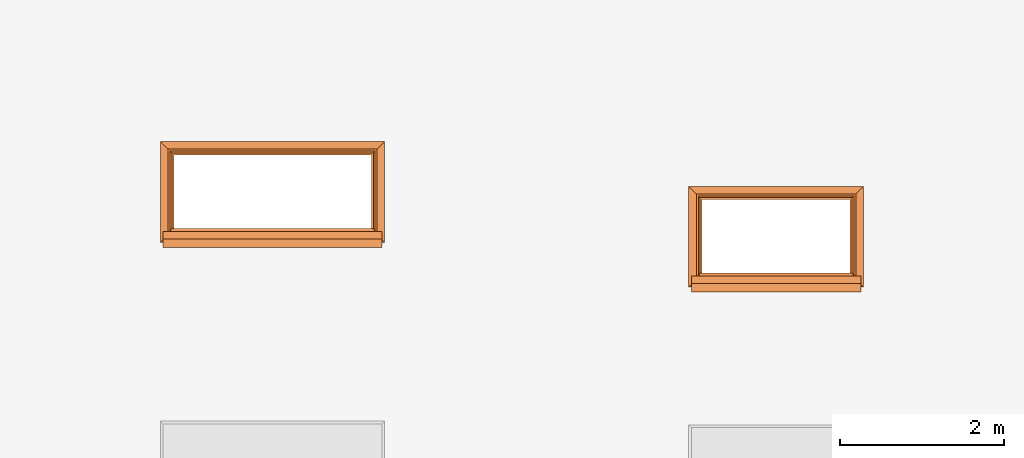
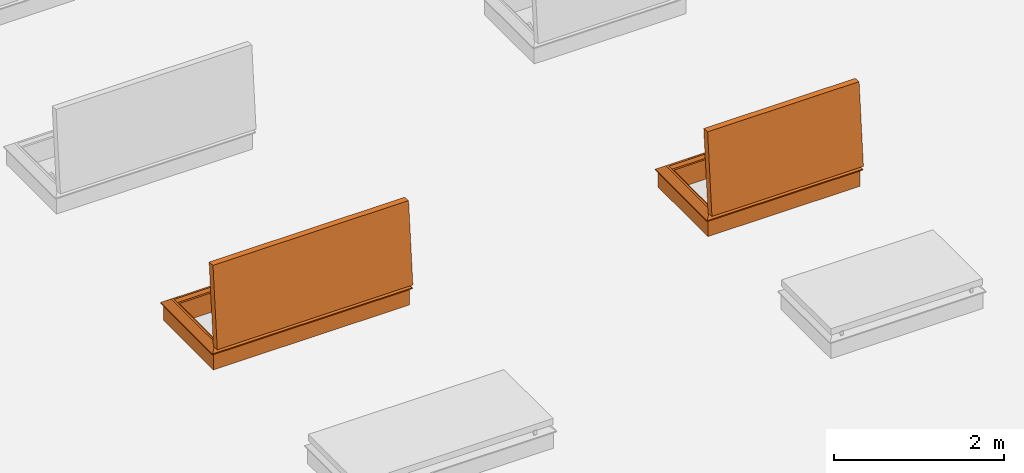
# One storey, part 15 of 28: 2 proxies.
"""IFC2X3 building model written with IfcOpenShell, lengths in millimetres."""

from ifc_helpers import new_model, entity, si_unit, converted_unit, derived_unit, direction, frame, origin, place, context, subcontext, project, spatial, faceted_brep, source, transform, mapped, type_object, type_shapes, element, save


model = new_model("IFC2X3")

# Units and contexts
model_context = context("Model", 3, precision=0.01, world=origin(), true_north=direction((6.12303176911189e-17, 1.0)))
body_context = subcontext(model_context, "Body", "Model", "MODEL_VIEW")
ifc_project = project(units=[si_unit("LENGTHUNIT", "METRE", prefix="MILLI"), si_unit("AREAUNIT", "SQUARE_METRE"), si_unit("VOLUMEUNIT", "CUBIC_METRE"), converted_unit("PLANEANGLEUNIT", "DEGREE", entity("IfcRatioMeasure", 0.0174532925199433), si_unit("PLANEANGLEUNIT", "RADIAN"), dimensions=[0, 0, 0, 0, 0, 0, 0]), si_unit("MASSUNIT", "GRAM", prefix="KILO"), derived_unit("MASSDENSITYUNIT", [(si_unit("MASSUNIT", "GRAM", prefix="KILO"), 1), (si_unit("LENGTHUNIT", "METRE"), -3)]), si_unit("TIMEUNIT", "SECOND"), si_unit("FREQUENCYUNIT", "HERTZ"), si_unit("THERMODYNAMICTEMPERATUREUNIT", "DEGREE_CELSIUS"), derived_unit("THERMALTRANSMITTANCEUNIT", [(si_unit("MASSUNIT", "GRAM", prefix="KILO"), 1), (si_unit("THERMODYNAMICTEMPERATUREUNIT", "KELVIN"), -1), (si_unit("TIMEUNIT", "SECOND"), -3)]), derived_unit("VOLUMETRICFLOWRATEUNIT", [(si_unit("LENGTHUNIT", "METRE"), 3), (si_unit("TIMEUNIT", "SECOND"), -1)]), si_unit("ELECTRICCURRENTUNIT", "AMPERE"), si_unit("ELECTRICVOLTAGEUNIT", "VOLT"), si_unit("POWERUNIT", "WATT"), si_unit("FORCEUNIT", "NEWTON", prefix="KILO"), si_unit("ILLUMINANCEUNIT", "LUX"), si_unit("LUMINOUSFLUXUNIT", "LUMEN"), si_unit("LUMINOUSINTENSITYUNIT", "CANDELA"), derived_unit("USERDEFINED", [(si_unit("MASSUNIT", "GRAM", prefix="KILO"), -1), (si_unit("LENGTHUNIT", "METRE"), -2), (si_unit("TIMEUNIT", "SECOND"), 3), (si_unit("LUMINOUSFLUXUNIT", "LUMEN"), 1)]), derived_unit("LINEARVELOCITYUNIT", [(si_unit("LENGTHUNIT", "METRE"), 1), (si_unit("TIMEUNIT", "SECOND"), -1)]), si_unit("PRESSUREUNIT", "PASCAL"), derived_unit("USERDEFINED", [(si_unit("LENGTHUNIT", "METRE"), -2), (si_unit("MASSUNIT", "GRAM", prefix="KILO"), 1), (si_unit("TIMEUNIT", "SECOND"), -2)])], contexts=[model_context])

# Site, building, storey
site_placement = place(None, origin())
site = spatial("IfcSite", under=ifc_project, at=site_placement, Name="Default", CompositionType="ELEMENT")
building_placement = place(site_placement, origin())
building = spatial("IfcBuilding", under=site, at=building_placement, CompositionType="ELEMENT")
storey_placement = place(building_placement, frame((0.0, 0.0, 4000.0)))
storey = spatial("IfcBuildingStorey", under=building, at=storey_placement, Name="Level 2", CompositionType="ELEMENT", Elevation=4000.0)

# Proxies
building_element_proxy_type_1 = type_object("IfcBuildingElementProxyType", Name="1800 x 900", PredefinedType="NOTDEFINED")
shared_shape_1 = source(origin(), body_context, "Body", "Brep", [
    faceted_brep([(-1631.26976233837, -341.462693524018, 337.452052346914), (-1631.26976233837, -341.488441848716, 335.779315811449), (-1631.26976233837, -341.532578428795, 334.060847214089), (-1631.26976233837, -341.190557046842, 332.37617996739), (-1631.26976233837, -340.479768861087, 330.81097630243), (-1631.26976233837, -339.436356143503, 329.444823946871), (-1631.26976233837, -338.113374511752, 328.347189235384), (-1631.26976233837, -336.578095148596, 327.573884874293), (-1631.26976233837, -302.711611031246, 315.073034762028), (-1631.26976233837, -349.563739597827, 277.591331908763), (-1631.26976233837, -356.620505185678, 286.412288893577), (-1631.26976233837, -357.994045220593, 289.380489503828), (-1631.26976233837, -358.771185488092, 292.557418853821), (-1631.26976233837, -358.922919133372, 295.824497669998), (-1631.26976233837, -354.679485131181, 338.870295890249), (-1631.26976233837, -353.959431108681, 340.38033982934), (-1631.26976233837, -352.892612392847, 341.668985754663), (-1631.26976233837, -351.543548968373, 342.658297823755), (-1631.26976233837, -349.993830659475, 343.288443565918), (-1631.26976233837, -348.337182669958, 343.521312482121), (-1631.26976233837, -346.673797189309, 343.342820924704), (-1631.26976233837, -345.104273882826, 342.763763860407), (-1631.26976233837, -343.723535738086, 341.819162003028), (-1631.26976233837, -342.615088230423, 340.566143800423), (-1631.26976233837, -341.845969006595, 339.080490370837), (-1594.51295834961, -302.711611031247, 315.073034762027), (-1594.51295834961, -349.563739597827, 277.591331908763), (-1594.51295834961, -356.620505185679, 286.412288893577), (-1594.51295834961, -357.994045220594, 289.380489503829), (-1594.51295834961, -358.771185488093, 292.557418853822), (-1594.51295834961, -358.922919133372, 295.824497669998), (-1594.51295834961, -354.679485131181, 338.870295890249), (-1594.51295834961, -353.959431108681, 340.380339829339), (-1594.51295834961, -352.892612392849, 341.668985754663), (-1594.51295834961, -351.543548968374, 342.658297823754), (-1594.51295834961, -349.993830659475, 343.288443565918), (-1594.51295834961, -348.337182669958, 343.52131248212), (-1594.51295834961, -346.673797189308, 343.342820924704), (-1594.51295834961, -343.723535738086, 341.819162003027), (-1594.51295834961, -345.104273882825, 342.763763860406), (-1594.51295834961, -342.615088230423, 340.566143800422), (-1594.51295834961, -341.845969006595, 339.080490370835), (-1594.51295834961, -341.462693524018, 337.452052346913), (-1594.51295834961, -341.488441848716, 335.779315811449), (-1594.51295834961, -341.532578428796, 334.060847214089), (-1594.51295834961, -341.190557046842, 332.376179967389), (-1594.51295834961, -340.479768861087, 330.810976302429), (-1594.51295834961, -338.113374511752, 328.347189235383), (-1594.51295834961, -336.578095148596, 327.573884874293), (-1594.51295834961, -339.436356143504, 329.44482394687)], [[[0, 1, 2, 3, 4, 5, 6, 7, 8, 9, 10, 11, 12, 13, 14, 15, 16, 17, 18, 19, 20, 21, 22, 23, 24]], [[9, 8, 25, 26]], [[10, 9, 26, 27]], [[27, 28, 11, 10]], [[28, 29, 12, 11]], [[29, 30, 13, 12]], [[14, 13, 30, 31]], [[15, 14, 31, 32]], [[33, 16, 15, 32]], [[18, 17, 34, 35]], [[17, 16, 33, 34]], [[36, 19, 18, 35]], [[20, 19, 36, 37]], [[38, 22, 21, 39]], [[40, 23, 22, 38]], [[0, 24, 41, 42]], [[40, 41, 24, 23]], [[1, 0, 42, 43]], [[39, 21, 20, 37]], [[44, 45, 3, 2]], [[43, 44, 2, 1]], [[46, 4, 3, 45]], [[47, 48, 7, 6]], [[49, 47, 6, 5]], [[49, 5, 4, 46]], [[8, 7, 48, 25]], [[26, 25, 48, 47, 49, 46, 45, 44, 43, 42, 41, 40, 38, 39, 37, 36, 35, 34, 33, 32, 31, 30, 29, 28, 27]]]),
    faceted_brep([(133.458717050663, -349.563739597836, 277.591331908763), (133.458717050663, -302.711611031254, 315.073034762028), (168.730237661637, -302.711611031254, 315.073034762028), (168.730237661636, -349.563739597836, 277.591331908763), (133.458717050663, -356.620505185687, 286.412288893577), (168.730237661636, -356.620505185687, 286.412288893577), (168.730237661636, -357.994045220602, 289.380489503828), (133.458717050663, -357.994045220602, 289.380489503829), (168.730237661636, -358.771185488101, 292.557418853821), (133.458717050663, -358.771185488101, 292.557418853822), (168.730237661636, -358.922919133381, 295.824497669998), (133.458717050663, -358.922919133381, 295.824497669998), (133.458717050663, -354.679485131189, 338.870295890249), (168.730237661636, -354.679485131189, 338.870295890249), (168.730237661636, -353.959431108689, 340.38033982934), (133.458717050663, -353.959431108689, 340.38033982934), (168.730237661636, -352.892612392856, 341.668985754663), (133.458717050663, -352.892612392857, 341.668985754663), (133.458717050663, -349.993830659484, 343.288443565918), (133.458717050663, -351.543548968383, 342.658297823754), (168.730237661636, -351.543548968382, 342.658297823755), (168.730237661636, -349.993830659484, 343.288443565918), (133.458717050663, -348.337182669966, 343.521312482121), (168.730237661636, -348.337182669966, 343.521312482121), (133.458717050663, -346.673797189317, 343.342820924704), (168.730237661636, -346.673797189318, 343.342820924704), (168.730237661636, -345.104273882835, 342.763763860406), (133.458717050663, -345.104273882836, 342.763763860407), (168.730237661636, -343.723535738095, 341.819162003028), (133.458717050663, -343.723535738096, 341.819162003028), (133.458717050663, -341.845969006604, 339.080490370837), (133.458717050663, -342.615088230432, 340.566143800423), (168.730237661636, -342.615088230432, 340.566143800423), (168.730237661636, -341.845969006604, 339.080490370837), (133.458717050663, -341.462693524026, 337.452052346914), (168.730237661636, -341.462693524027, 337.452052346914), (133.458717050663, -341.488441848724, 335.779315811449), (168.730237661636, -341.488441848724, 335.779315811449), (133.458717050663, -341.532578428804, 334.060847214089), (168.730237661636, -341.532578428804, 334.060847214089), (133.458717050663, -341.19055704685, 332.37617996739), (168.730237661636, -341.190557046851, 332.37617996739), (168.730237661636, -340.479768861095, 330.81097630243), (133.458717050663, -340.479768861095, 330.81097630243), (133.458717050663, -338.113374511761, 328.347189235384), (133.458717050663, -339.436356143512, 329.44482394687), (168.730237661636, -339.436356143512, 329.44482394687), (168.730237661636, -338.113374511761, 328.347189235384), (133.458717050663, -336.578095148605, 327.573884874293), (168.730237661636, -336.578095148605, 327.573884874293)], [[[0, 1, 2, 3]], [[4, 0, 3, 5]], [[5, 6, 7, 4]], [[6, 8, 9, 7]], [[8, 10, 11, 9]], [[12, 11, 10, 13]], [[14, 15, 12, 13]], [[16, 17, 15, 14]], [[18, 19, 20, 21]], [[16, 20, 19, 17]], [[22, 18, 21, 23]], [[24, 22, 23, 25]], [[26, 27, 24, 25]], [[28, 29, 27, 26]], [[30, 31, 32, 33]], [[28, 32, 31, 29]], [[34, 30, 33, 35]], [[36, 34, 35, 37]], [[38, 36, 37, 39]], [[40, 38, 39, 41]], [[42, 43, 40, 41]], [[44, 45, 46, 47]], [[48, 44, 47, 49]], [[46, 45, 43, 42]], [[1, 48, 49, 2]], [[5, 3, 2, 49, 47, 46, 42, 41, 39, 37, 35, 33, 32, 28, 26, 25, 23, 21, 20, 16, 14, 13, 10, 8, 6]], [[12, 15, 17, 19, 18, 22, 24, 27, 29, 31, 30, 34, 36, 38, 40, 43, 45, 44, 48, 1, 0, 4, 7, 9, 11]]]),
    faceted_brep([(238.730237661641, 753.447095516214, 328.0), (330.730237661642, 845.447095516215, 254.4), (-1793.26976233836, 845.447095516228, 254.4), (-1701.26976233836, 753.447095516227, 328.0), (194.730237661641, 709.447095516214, 282.0), (214.256079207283, 728.972937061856, 328.0), (-1676.795603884, 728.972937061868, 328.0), (-1657.26976233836, 709.447095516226, 282.0), (168.73023766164, 683.447095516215, 0.0), (168.73023766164, 683.447095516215, 282.0), (-1631.26976233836, 683.447095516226, 282.0), (-1631.26976233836, 683.447095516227, 0.0), (304.73023766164, 819.447095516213, 240.0), (304.730237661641, 819.447095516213, 0.0), (-1767.26976233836, 819.447095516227, 0.0), (-1767.26976233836, 819.447095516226, 240.0), (330.730237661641, 845.447095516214, 240.0), (-1793.26976233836, 845.447095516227, 240.0), (-1793.26976233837, -378.552904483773, 254.4), (-1701.26976233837, -286.552904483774, 328.0), (-1676.79560388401, -262.078746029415, 328.0), (-1657.26976233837, -242.552904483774, 282.0), (-1631.26976233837, -216.552904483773, 282.0), (-1631.26976233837, -216.552904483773, 0.0), (-1767.26976233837, -352.552904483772, 0.0), (-1767.26976233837, -352.552904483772, 240.0), (-1793.26976233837, -378.552904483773, 240.0), (330.730237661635, -378.552904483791, 254.4), (238.730237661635, -286.552904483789, 328.0), (214.256079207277, -262.078746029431, 328.0), (194.730237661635, -242.552904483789, 282.0), (168.730237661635, -216.552904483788, 282.0), (168.730237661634, -216.552904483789, 0.0), (304.730237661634, -352.552904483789, 0.0), (304.730237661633, -352.552904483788, 240.0), (330.730237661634, -378.552904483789, 240.0)], [[[0, 1, 2, 3]], [[4, 5, 6, 7]], [[8, 9, 10, 11]], [[12, 13, 14, 15]], [[1, 16, 17, 2]], [[3, 2, 18, 19]], [[7, 6, 20, 21]], [[11, 10, 22, 23]], [[15, 14, 24, 25]], [[2, 17, 26, 18]], [[19, 18, 27, 28]], [[21, 20, 29, 30]], [[23, 22, 31, 32]], [[25, 24, 33, 34]], [[18, 26, 35, 27]], [[28, 27, 1, 0]], [[3, 19, 28, 0], [5, 29, 20, 6]], [[30, 29, 5, 4]], [[7, 21, 30, 4], [9, 31, 22, 10]], [[32, 31, 9, 8]], [[11, 23, 32, 8], [13, 33, 24, 14]], [[34, 33, 13, 12]], [[15, 25, 34, 12], [16, 35, 26, 17]], [[27, 35, 16, 1]]], outer=[[True], [True], [True], [True], [True], [True], [True], [True], [True], [True], [True], [True], [True], [True], [True], [True], [True, False], [True], [True, False], [True], [False, True], [True], [False, True], [True]]),
    faceted_brep([(-1633.27259076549, -350.029551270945, 1370.57460720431), (-1633.27259076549, -428.818342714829, 470.014600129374), (171.727409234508, -428.81834271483, 470.014600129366), (171.727409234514, -350.029551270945, 1370.5746072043), (-1633.27259076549, -211.160010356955, 1358.42509666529), (171.727409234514, -211.160010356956, 1358.42509666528), (171.727409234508, -289.94880180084, 457.865089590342), (-1633.27259076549, -289.948801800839, 457.86508959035)], [[[0, 1, 2, 3]], [[4, 5, 6, 7]], [[1, 0, 4, 7]], [[2, 1, 7, 6]], [[3, 2, 6, 5]], [[0, 3, 5, 4]]]),
    faceted_brep([(171.727409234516, -211.16001035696, 1358.42509666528), (171.727409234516, -350.02955127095, 1370.57460720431), (-1633.27259076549, -350.029551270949, 1370.57460720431), (-1633.27259076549, -211.16001035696, 1358.42509666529), (214.727409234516, -253.635747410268, 1405.30549514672), (197.127409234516, -208.94625449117, 1383.72844199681), (-1658.67259076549, -208.946254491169, 1383.72844199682), (-1676.27259076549, -253.635747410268, 1405.30549514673), (300.727409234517, -338.786460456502, 1499.08372325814), (300.727409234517, -246.14035353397, 1490.97823918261), (-1762.27259076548, -246.140353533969, 1490.97823918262), (-1762.27259076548, -338.786460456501, 1499.08372325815), (-1633.27259076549, -428.818342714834, 470.014600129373), (-1633.27259076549, -289.948801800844, 457.865089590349), (-1658.67259076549, -292.162557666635, 432.561744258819), (-1676.27259076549, -339.919932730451, 419.072744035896), (-1762.27259076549, -347.41532660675, 333.400000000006), (-1762.27259076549, -440.061433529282, 341.505484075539), (171.72740923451, -428.818342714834, 470.014600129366), (171.72740923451, -289.948801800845, 457.865089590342), (197.12740923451, -292.162557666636, 432.561744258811), (214.72740923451, -339.919932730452, 419.072744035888), (300.727409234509, -347.415326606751, 333.399999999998), (300.727409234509, -440.061433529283, 341.50548407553)], [[[0, 1, 2, 3]], [[4, 5, 6, 7]], [[8, 9, 10, 11]], [[3, 2, 12, 13]], [[7, 6, 14, 15]], [[11, 10, 16, 17]], [[13, 12, 18, 19]], [[15, 14, 20, 21]], [[17, 16, 22, 23]], [[19, 18, 1, 0]], [[3, 13, 19, 0], [5, 20, 14, 6]], [[21, 20, 5, 4]], [[7, 15, 21, 4], [9, 22, 16, 10]], [[23, 22, 9, 8]], [[1, 18, 12, 2], [11, 17, 23, 8]]], outer=[[True], [True], [True], [True], [True], [True], [True], [True], [True], [True], [False, True], [True], [False, True], [True], [False, True]]),
])
type_shapes(building_element_proxy_type_1, [shared_shape_1])
proxy_1_placement = place(storey_placement, frame((-11350.7704168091, 1397.08989573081, 400.0)))
element("IfcBuildingElementProxy", 1, at=proxy_1_placement, inside=storey, type_object=building_element_proxy_type_1, Name="4_Topaccess_dakluik_1800x900_Staka:1800 x 900", ObjectType="1800 x 900", context=body_context, shape_type="MappedRepresentation", body=[
    mapped(shared_shape_1, transform((0.0, 0.0, 0.0), scale=1.0)),
])
building_element_proxy_type_2 = type_object("IfcBuildingElementProxyType", Name="2400 x 900", PredefinedType="NOTDEFINED")
shared_shape_2 = source(origin(), body_context, "Body", "Brep", [
    faceted_brep([(-2421.30222365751, -351.544434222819, 276.006776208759), (-2421.30222365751, -361.481298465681, 288.427856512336), (-2421.30222365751, -362.009001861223, 290.420024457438), (-2421.30222365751, -361.907279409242, 292.478387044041), (-2421.30222365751, -354.714045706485, 338.058567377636), (-2421.30222365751, -353.91934137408, 339.862431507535), (-2421.30222365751, -352.710912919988, 341.419730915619), (-2421.30222365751, -351.160903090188, 342.637495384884), (-2421.30222365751, -349.361846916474, 343.443024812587), (-2421.30222365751, -347.421147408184, 343.788229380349), (-2421.30222365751, -345.454663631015, 343.65250049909), (-2421.30222365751, -343.579793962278, 343.043941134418), (-2421.30222365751, -341.908467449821, 341.998882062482), (-2421.30222365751, -340.540461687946, 340.579712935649), (-2421.30222365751, -339.557446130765, 338.871157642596), (-2421.30222365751, -339.01810645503, 336.975216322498), (-2421.30222365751, -338.954641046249, 335.00507599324), (-2421.30222365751, -339.3708387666, 333.078353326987), (-2421.30222365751, -340.241852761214, 331.310072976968), (-2421.30222365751, -340.511771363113, 328.317261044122), (-2421.30222365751, -338.595712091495, 326.002418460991), (-2421.30222365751, -304.692305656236, 313.488479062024), (-2385.21838034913, -304.692305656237, 313.488479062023), (-2385.21838034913, -351.544434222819, 276.006776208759), (-2385.21838034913, -338.595712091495, 326.002418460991), (-2385.21838034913, -340.241852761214, 331.310072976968), (-2385.21838034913, -340.511771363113, 328.317261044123), (-2385.21838034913, -353.91934137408, 339.862431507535), (-2385.21838034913, -354.714045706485, 338.058567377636), (-2385.21838034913, -352.710912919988, 341.419730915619), (-2385.21838034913, -349.361846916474, 343.443024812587), (-2385.21838034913, -347.421147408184, 343.788229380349), (-2385.21838034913, -351.160903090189, 342.637495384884), (-2385.21838034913, -345.454663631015, 343.65250049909), (-2385.21838034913, -343.579793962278, 343.043941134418), (-2385.21838034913, -340.540461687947, 340.579712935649), (-2385.21838034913, -341.908467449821, 341.998882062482), (-2385.21838034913, -339.557446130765, 338.871157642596), (-2385.21838034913, -338.954641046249, 335.00507599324), (-2385.21838034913, -339.3708387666, 333.078353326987), (-2385.21838034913, -339.01810645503, 336.975216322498), (-2398.68899764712, -361.907279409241, 292.478387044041), (-2385.21838034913, -361.907279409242, 292.478387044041), (-2385.21838034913, -362.009001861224, 290.420024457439), (-2405.69554851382, -362.019279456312, 290.525796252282), (-2385.21838034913, -361.481298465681, 288.427856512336), (-2407.83160635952, -361.48129846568, 288.427856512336)], [[[0, 1, 2, 3, 4, 5, 6, 7, 8, 9, 10, 11, 12, 13, 14, 15, 16, 17, 18, 19, 20, 21]], [[0, 21, 22, 23]], [[21, 20, 24, 22]], [[25, 26, 19, 18]], [[24, 20, 19, 26]], [[27, 5, 4, 28]], [[29, 6, 5, 27]], [[30, 31, 9, 8]], [[8, 7, 32, 30]], [[7, 6, 29, 32]], [[33, 10, 9, 31]], [[11, 10, 33, 34]], [[35, 13, 12, 36]], [[37, 14, 13, 35]], [[38, 39, 17, 16]], [[16, 15, 40, 38]], [[15, 14, 37, 40]], [[39, 25, 18, 17]], [[12, 11, 34, 36]], [[4, 3, 41, 42, 28]], [[41, 43, 42]], [[44, 45, 43]], [[43, 41, 44]], [[44, 2, 46]], [[3, 2, 44]], [[44, 46, 45]], [[3, 44, 41]], [[1, 46, 2]], [[1, 0, 23, 45, 46]], [[23, 22, 24, 26, 25, 39, 38, 40, 37, 35, 36, 34, 33, 31, 30, 32, 29, 27, 28, 42, 43, 45]]]),
    faceted_brep([(-264.700468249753, -351.54443422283, 276.006776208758), (-264.700468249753, -304.692305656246, 313.488479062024), (-226.128712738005, -304.692305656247, 313.488479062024), (-226.128712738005, -351.544434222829, 276.006776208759), (-264.700468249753, -338.595712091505, 326.002418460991), (-226.128712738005, -338.595712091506, 326.002418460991), (-226.128712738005, -340.241852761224, 331.310072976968), (-226.128712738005, -340.511771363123, 328.317261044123), (-264.700468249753, -340.511771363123, 328.317261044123), (-264.700468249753, -340.241852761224, 331.310072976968), (-226.128712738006, -353.91934137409, 339.862431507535), (-264.700468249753, -353.91934137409, 339.862431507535), (-264.700468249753, -354.714045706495, 338.058567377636), (-226.128712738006, -354.714045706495, 338.058567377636), (-226.128712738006, -352.710912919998, 341.419730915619), (-264.700468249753, -352.710912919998, 341.419730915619), (-264.700468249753, -349.361846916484, 343.443024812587), (-264.700468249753, -351.160903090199, 342.637495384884), (-226.128712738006, -351.160903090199, 342.637495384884), (-226.128712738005, -349.361846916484, 343.443024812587), (-226.128712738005, -347.421147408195, 343.788229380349), (-264.700468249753, -347.421147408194, 343.788229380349), (-226.128712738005, -345.454663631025, 343.65250049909), (-264.700468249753, -345.454663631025, 343.65250049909), (-226.128712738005, -343.579793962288, 343.043941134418), (-264.700468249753, -343.579793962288, 343.043941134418), (-226.128712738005, -341.908467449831, 341.998882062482), (-264.700468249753, -341.908467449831, 341.998882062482), (-226.128712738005, -340.540461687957, 340.579712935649), (-264.700468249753, -340.540461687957, 340.579712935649), (-264.700468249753, -339.01810645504, 336.975216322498), (-264.700468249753, -339.557446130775, 338.871157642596), (-226.128712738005, -339.557446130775, 338.871157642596), (-226.128712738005, -339.01810645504, 336.975216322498), (-226.128712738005, -338.954641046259, 335.00507599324), (-264.700468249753, -338.954641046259, 335.00507599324), (-226.128712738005, -339.37083876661, 333.078353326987), (-264.700468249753, -339.37083876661, 333.078353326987), (-264.700468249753, -361.907279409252, 292.478387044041), (-242.087239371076, -361.907279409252, 292.478387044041), (-226.128712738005, -361.907279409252, 292.478387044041), (-226.128712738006, -361.481298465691, 288.427856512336), (-226.128712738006, -362.009001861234, 290.420024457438), (-242.087238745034, -361.481298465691, 288.427856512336), (-264.700468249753, -361.481298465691, 288.427856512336), (-248.60150558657, -362.009001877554, 290.420024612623), (-264.700468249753, -362.009001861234, 290.420024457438)], [[[0, 1, 2, 3]], [[1, 4, 5, 2]], [[6, 7, 8, 9]], [[5, 4, 8, 7]], [[10, 11, 12, 13]], [[14, 15, 11, 10]], [[16, 17, 18, 19]], [[19, 20, 21, 16]], [[14, 18, 17, 15]], [[22, 23, 21, 20]], [[23, 22, 24, 25]], [[26, 27, 25, 24]], [[28, 29, 27, 26]], [[30, 31, 32, 33]], [[33, 34, 35, 30]], [[28, 32, 31, 29]], [[36, 37, 35, 34]], [[9, 37, 36, 6]], [[12, 38, 39, 40, 13]], [[41, 42, 43]], [[40, 39, 42]], [[44, 43, 45]], [[46, 44, 45]], [[45, 38, 46]], [[38, 45, 39]], [[39, 45, 42]], [[42, 45, 43]], [[0, 3, 41, 43, 44]], [[19, 18, 14, 10, 13, 40, 42, 41, 3, 2, 5, 7, 6, 36, 34, 33, 32, 28, 26, 24, 22, 20]], [[31, 30, 35, 37, 9, 8, 4, 1, 0, 44, 46, 38, 12, 11, 15, 17, 16, 21, 23, 25, 27, 29]]]),
    faceted_brep([(-61.2697623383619, 753.447095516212, 328.0), (30.7302376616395, 845.447095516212, 254.4), (-2693.26976233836, 845.447095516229, 254.4), (-2601.26976233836, 753.447095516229, 328.0), (-105.269762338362, 709.447095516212, 282.0), (-85.7439207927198, 728.972937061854, 328.0), (-2576.795603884, 728.97293706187, 328.0), (-2557.26976233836, 709.447095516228, 282.0), (-131.269762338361, 683.447095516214, 0.0), (-131.269762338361, 683.447095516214, 282.0), (-2531.26976233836, 683.447095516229, 282.0), (-2531.26976233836, 683.447095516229, 0.0), (4.73023766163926, 819.447095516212, 240.0), (4.73023766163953, 819.447095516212, 0.0), (-2667.26976233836, 819.447095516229, 0.0), (-2667.26976233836, 819.447095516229, 240.0), (30.7302376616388, 845.447095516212, 240.0), (-2693.26976233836, 845.447095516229, 240.0), (-2693.26976233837, -378.552904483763, 254.4), (-2601.26976233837, -286.552904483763, 328.0), (-2576.79560388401, -262.078746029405, 328.0), (-2557.26976233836, -242.552904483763, 282.0), (-2531.26976233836, -216.552904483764, 282.0), (-2531.26976233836, -216.552904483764, 0.0), (-2667.26976233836, -352.552904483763, 0.0), (-2667.26976233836, -352.552904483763, 240.0), (-2693.26976233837, -378.552904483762, 240.0), (30.7302376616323, -378.552904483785, 254.4), (-61.2697623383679, -286.552904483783, 328.0), (-85.7439207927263, -262.078746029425, 328.0), (-105.269762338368, -242.552904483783, 282.0), (-131.269762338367, -216.552904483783, 282.0), (-131.269762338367, -216.552904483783, 0.0), (4.73023766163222, -352.552904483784, 0.0), (4.73023766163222, -352.552904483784, 240.0), (30.7302376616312, -378.552904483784, 240.0)], [[[0, 1, 2, 3]], [[4, 5, 6, 7]], [[8, 9, 10, 11]], [[12, 13, 14, 15]], [[1, 16, 17, 2]], [[3, 2, 18, 19]], [[7, 6, 20, 21]], [[11, 10, 22, 23]], [[15, 14, 24, 25]], [[2, 17, 26, 18]], [[19, 18, 27, 28]], [[21, 20, 29, 30]], [[23, 22, 31, 32]], [[25, 24, 33, 34]], [[18, 26, 35, 27]], [[28, 27, 1, 0]], [[3, 19, 28, 0], [5, 29, 20, 6]], [[30, 29, 5, 4]], [[7, 21, 30, 4], [9, 31, 22, 10]], [[32, 31, 9, 8]], [[11, 23, 32, 8], [13, 33, 24, 14]], [[34, 33, 13, 12]], [[15, 25, 34, 12], [16, 35, 26, 17]], [[27, 35, 16, 1]]], outer=[[True], [True], [True], [True], [True], [True], [True], [True], [True], [True], [True], [True], [True], [True], [True], [True], [True, False], [True], [True, False], [True], [False, True], [True], [False, True], [True]]),
    faceted_brep([(-2533.97259076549, -350.282302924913, 1367.68564257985), (-2533.97259076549, -428.818342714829, 470.014600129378), (-128.272590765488, -428.81834271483, 470.014600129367), (-128.272590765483, -350.282302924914, 1367.68564257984), (-2533.97259076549, -211.412762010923, 1355.53613204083), (-128.272590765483, -211.412762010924, 1355.53613204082), (-128.272590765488, -289.94880180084, 457.865089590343), (-2533.97259076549, -289.948801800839, 457.865089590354)], [[[0, 1, 2, 3]], [[4, 5, 6, 7]], [[1, 0, 4, 7]], [[2, 1, 7, 6]], [[3, 2, 6, 5]], [[0, 3, 5, 4]]]),
    faceted_brep([(-128.272590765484, -211.412762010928, 1355.53613204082), (-128.272590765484, -350.282302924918, 1367.68564257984), (-2533.97259076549, -350.282302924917, 1367.68564257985), (-2533.97259076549, -211.412762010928, 1355.53613204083), (-85.2725907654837, -253.888499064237, 1402.41653052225), (-102.872590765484, -209.199006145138, 1380.83947737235), (-2559.37259076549, -209.199006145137, 1380.83947737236), (-2576.97259076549, -253.888499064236, 1402.41653052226), (0.727409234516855, -339.03921211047, 1496.19475863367), (0.72740923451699, -246.393105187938, 1488.08927455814), (-2662.97259076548, -246.393105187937, 1488.08927455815), (-2662.97259076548, -339.039212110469, 1496.19475863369), (-2533.97259076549, -428.818342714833, 470.014600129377), (-2533.97259076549, -289.948801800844, 457.865089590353), (-2559.37259076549, -292.162557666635, 432.561744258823), (-2576.97259076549, -339.919932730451, 419.0727440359), (-2662.97259076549, -347.415326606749, 333.40000000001), (-2662.97259076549, -440.061433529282, 341.505484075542), (-128.272590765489, -428.818342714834, 470.014600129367), (-128.272590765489, -289.948801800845, 457.865089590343), (-102.872590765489, -292.162557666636, 432.561744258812), (-85.2725907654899, -339.919932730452, 419.072744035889), (0.727409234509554, -347.41532660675, 333.399999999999), (0.727409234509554, -440.061433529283, 341.505484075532)], [[[0, 1, 2, 3]], [[4, 5, 6, 7]], [[8, 9, 10, 11]], [[3, 2, 12, 13]], [[7, 6, 14, 15]], [[11, 10, 16, 17]], [[13, 12, 18, 19]], [[15, 14, 20, 21]], [[17, 16, 22, 23]], [[19, 18, 1, 0]], [[3, 13, 19, 0], [5, 20, 14, 6]], [[21, 20, 5, 4]], [[7, 15, 21, 4], [9, 22, 16, 10]], [[23, 22, 9, 8]], [[1, 18, 12, 2], [11, 17, 23, 8]]], outer=[[True], [True], [True], [True], [True], [True], [True], [True], [True], [True], [False, True], [True], [False, True], [True], [False, True]]),
])
type_shapes(building_element_proxy_type_2, [shared_shape_2])
proxy_2_placement = place(storey_placement, frame((-16873.1072346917, 1940.33582063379, 400.0)))
element("IfcBuildingElementProxy", 2, at=proxy_2_placement, inside=storey, type_object=building_element_proxy_type_2, Name="5_Topaccess_dakluik_2400x900_Staka:2400 x 900", ObjectType="2400 x 900", context=body_context, shape_type="MappedRepresentation", body=[
    mapped(shared_shape_2, transform((0.0, 0.0, 0.0), scale=1.0)),
])

save(model, "model.ifc")
